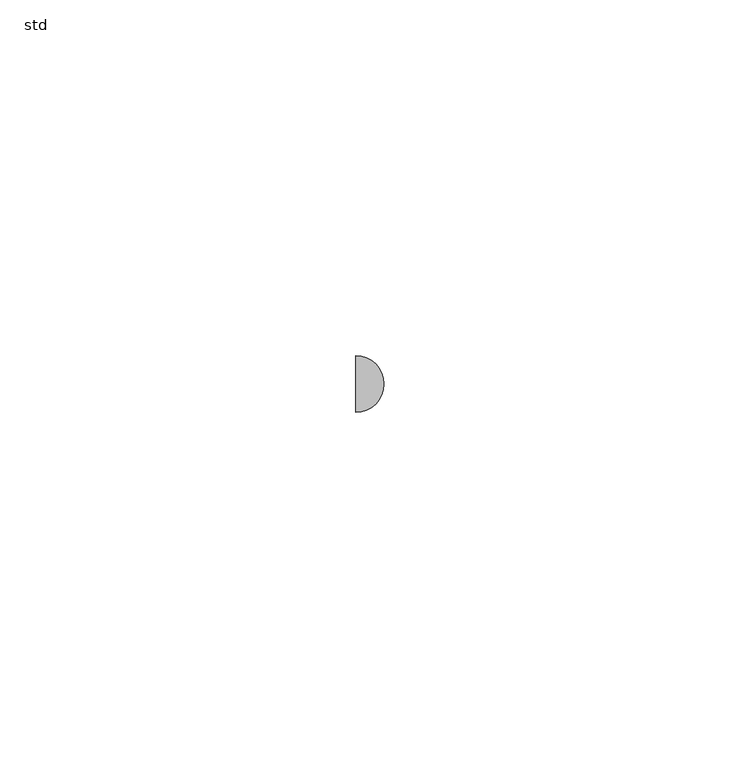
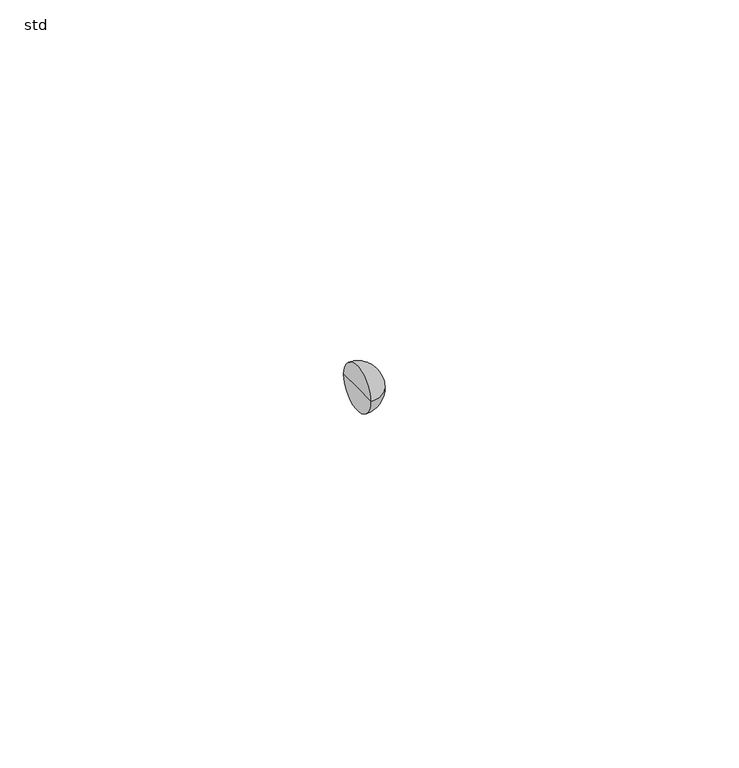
"""IFC4 building model written with IfcOpenShell, lengths in millimetres: pipe fitting geometry, PIF_ST_UN_GM-X double bend_ACO : std."""

from ifc_helpers import new_model, si_unit, point, frame, origin, place, context, project, spatial, circle_curve, ellipse_curve, trimmed, source, transform, mapped, element, save
from ifc_brep_helpers import plane_surface, revolved_surface, advanced_brep


def std_dee5be90(model_context):
    return source(origin(), model_context, "Body", "AdvancedBrep", [
        advanced_brep(
        [(-335.2411614, -4.0, 0.0), (-335.2411614, 4.0, 0.0), (-331.2411614, 0.0, 0.0), (-335.2411614, 0.0, 0.0)],
        [
            (0, 1, circle_curve(frame((-335.2411614, 0.0, 0.0), z_axis=(1.0, 0.0, 0.0), x_axis=(0.0, 1.0, 0.0)), 4.0)),
            (1, 2, circle_curve(frame((-335.2411614, 0.0, 0.0), z_axis=(0.0, 0.0, -1.0), x_axis=(-1.0, 0.0, 0.0)), 4.0)),
            (2, 0, circle_curve(frame((-335.2411614, 0.0, 0.0), z_axis=(0.0, 0.0, -1.0), x_axis=(-1.0, 0.0, 0.0)), 4.0)),
            (1, 0, circle_curve(frame((-335.2411614, 0.0, 0.0), z_axis=(1.0, 0.0, 0.0), x_axis=(0.0, 1.0, 0.0)), 4.0)),
            (3, 1),
            (0, 3),
        ],
        [
            revolved_surface(trimmed(ellipse_curve(frame((-335.2411614, 0.0, 0.0), z_axis=(0.0, 0.0, 1.0), x_axis=(-1.0, 0.0, 0.0)), 4.0, 4.0), [point((-331.2411614, 0.0, 0.0))], [point((-335.2411614, 4.0, 0.0))], True, "CARTESIAN"), (-342.2328388, 0.0, 0.0), (-1.0, 0.0, 0.0)),
            plane_surface(frame((-335.2411614, 0.0, 0.0), z_axis=(-1.0, 0.0, 0.0), x_axis=(0.0, 1.0, 0.0))),
        ],
        [
            (0, [[1, 2, 3]]),
            (0, [[4, -3, -2]]),
            (1, [[5, -1, 6]]),
            (1, [[-6, -4, -5]]),
        ],
    ),
    ])


if __name__ == "__main__":
    model = new_model("IFC4")
    model_context = context("Model", 3, world=origin())
    ifc_project = project(units=[si_unit("LENGTHUNIT", "METRE", prefix="MILLI")], contexts=[model_context])
    site = spatial("IfcSite", under=ifc_project)
    building = spatial("IfcBuilding", under=site)
    placement = place(None, origin())
    std_shape = std_dee5be90(model_context)
    element("IfcPipeFitting", 1, ObjectType="PIF_ST_UN_GM-X double bend_ACO : std", at=placement, inside=building, context=model_context, shape_type="MappedRepresentation", body=[
        mapped(std_shape, transform((0.0, 0.0, 0.0), x_axis=(1.0, 0.0, 0.0), y_axis=(0.0, 1.0, 0.0), z_axis=(0.0, 0.0, 1.0))),
    ])
    save(model, "model.ifc")
